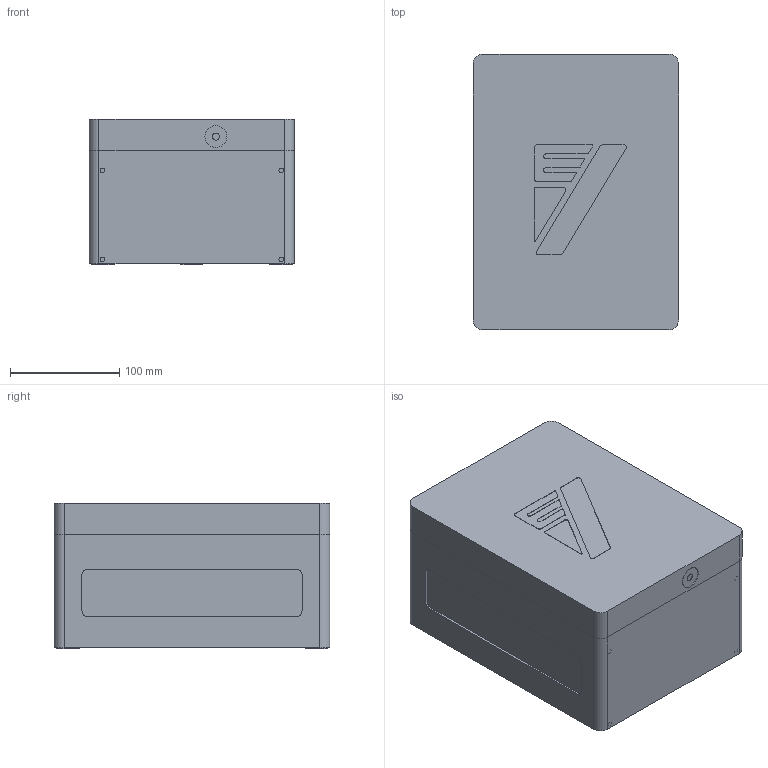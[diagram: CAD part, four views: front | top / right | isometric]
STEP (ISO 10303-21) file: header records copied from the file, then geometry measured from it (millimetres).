
FILE_DESCRIPTION(/* description */ (''),/* implementation_level */ '2;1');
FILE_NAME(/* name */ 'PEREGRINE-515 MSTP__PN-000425.step',/* time_stamp */ '2025-06-12T09:30:51+02:00',/* author */ (''),/* organization */ (''),/* preprocessor_version */ 'ST-DEVELOPER v20.1',/* originating_system */ 'Autodesk Translation Framework v14.10.0.0',/* authorisation */ '');
FILE_SCHEMA (('AUTOMOTIVE_DESIGN { 1 0 10303 214 3 1 1 }'));
Length unit declared in the file: millimetre
Products named in the file (1): PEREGRINE-515 MSTP__PN-000425
Bounding box: 188.3 x 252.2 x 133.35 mm (x, y, z)
Volume: 6229574 mm3; surface area: 312248.7 mm2
Topology: 2 solids, 8 shells, 838 faces, 2234 edges, 1508 vertices
Faces by surface type: plane 393, bspline 324, cylinder 105, torus 12, cone 4
Full cylindrical faces by diameter (mm): 1.5 x1, 1.6 x24, 2.4 x4, 4.34 x1, 5 x2, 5.035 x3, 6.5 x1, 20 x1
Entity records: 31208 total; most frequent: CARTESIAN_POINT 12153, ORIENTED_EDGE 4468, DIRECTION 2938, EDGE_CURVE 2234, VERTEX_POINT 1508, LINE 1312, VECTOR 1312, EDGE_LOOP 934
